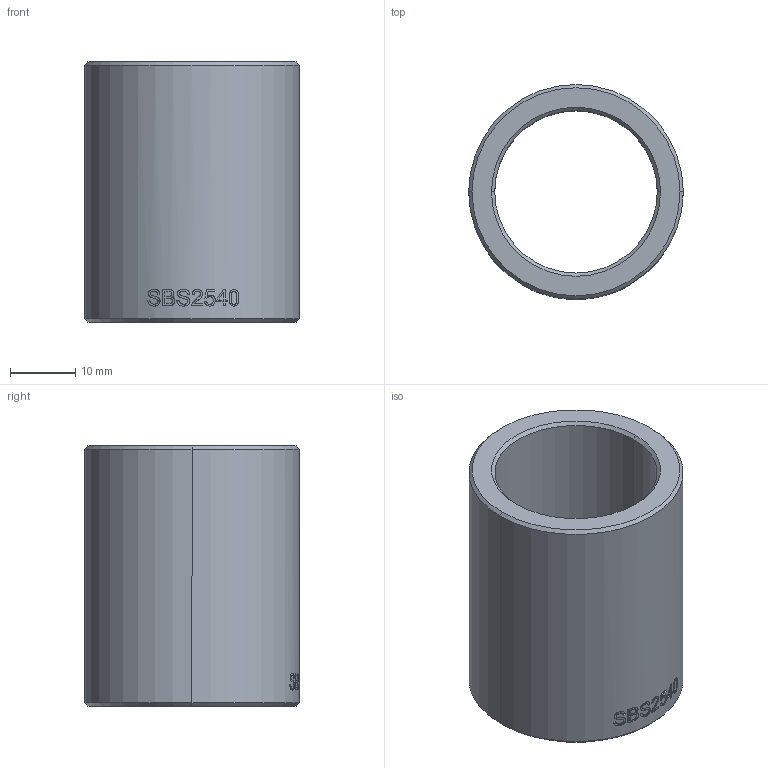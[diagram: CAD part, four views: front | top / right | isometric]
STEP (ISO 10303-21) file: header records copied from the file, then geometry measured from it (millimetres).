
FILE_DESCRIPTION (( 'STEP AP203' ), '1' );
FILE_NAME ('SBS2540_25mm_Rod_Bushing.STEP', '2020-12-18T20:22:46', ( '' ), ( '' ), 'SwSTEP 2.0', 'SolidWorks 2020', '' );
FILE_SCHEMA (( 'CONFIG_CONTROL_DESIGN' ));
Length unit declared in the file: millimetre
Products named in the file (1): SBS2540_25mm_Rod_Bushing
Bounding box: 33 x 33 x 40 mm (x, y, z)
Volume: 14530.4 mm3; surface area: 7918.8 mm2
Topology: 1 solids, 1 shells, 80 faces, 193 edges, 126 vertices
Faces by surface type: plane 43, bspline 21, cylinder 8, cone 8
Entity records: 3699 total; most frequent: CARTESIAN_POINT 1896, ORIENTED_EDGE 386, DIRECTION 288, EDGE_CURVE 193, VERTEX_POINT 126, VECTOR 112, LINE 112, EDGE_LOOP 93
